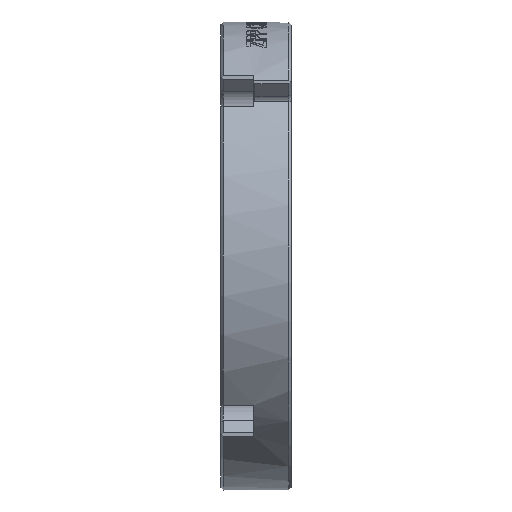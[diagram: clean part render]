
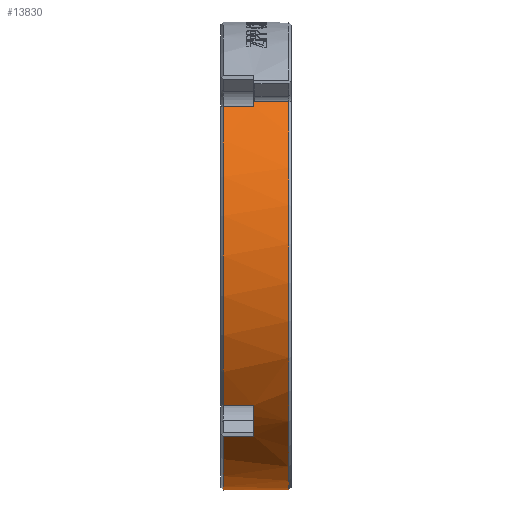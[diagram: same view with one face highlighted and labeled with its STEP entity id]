
A CAD part, left-side view. The second image highlights one B-rep face of the part: STEP entity #13830.
In plain terms, the highlighted cylindrical face has radius 100 mm (diameter 200 mm), a partial arc.
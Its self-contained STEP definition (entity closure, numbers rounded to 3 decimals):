
#233=CARTESIAN_POINT('',(63.795,29.,-77.008));
#241=CARTESIAN_POINT('',(-63.795,29.,-77.008));
#269=CARTESIAN_POINT('',(0.,16.,0.));
#270=DIRECTION('',(0.,-1.,0.));
#271=DIRECTION('',(0.638,0.,-0.77));
#272=AXIS2_PLACEMENT_3D('',#269,#270,#271);
#4628=CARTESIAN_POINT('',(0.,16.,0.));
#4629=DIRECTION('',(0.,-1.,0.));
#4630=DIRECTION('',(-0.751,0.,0.66));
#4631=AXIS2_PLACEMENT_3D('',#4628,#4629,#4630);
#4656=DIRECTION('',(0.,1.,0.));
#4657=VECTOR('',#4656,15.);
#4658=CARTESIAN_POINT('',(65.992,1.,-75.134));
#4659=LINE('',#4658,#4657);
#4660=DIRECTION('',(0.,-1.,0.));
#4661=VECTOR('',#4660,13.);
#4662=CARTESIAN_POINT('',(63.795,29.,-77.008));
#4663=LINE('',#4662,#4661);
#4664=CARTESIAN_POINT('',(0.,29.,0.));
#4665=DIRECTION('',(0.,1.,0.));
#4666=DIRECTION('',(0.638,0.,-0.77));
#4667=AXIS2_PLACEMENT_3D('',#4664,#4665,#4666);
#4669=DIRECTION('',(0.,-1.,0.));
#4670=VECTOR('',#4669,13.);
#4671=CARTESIAN_POINT('',(-63.795,29.,-77.008));
#4672=LINE('',#4671,#4670);
#4673=CARTESIAN_POINT('',(0.,16.,0.));
#4674=DIRECTION('',(0.,1.,0.));
#4675=DIRECTION('',(-0.638,0.,-0.77));
#4676=AXIS2_PLACEMENT_3D('',#4673,#4674,#4675);
#4678=DIRECTION('',(0.,-1.,0.));
#4679=VECTOR('',#4678,13.);
#4680=CARTESIAN_POINT('',(-77.008,29.,-63.795));
#4681=LINE('',#4680,#4679);
#4682=CARTESIAN_POINT('',(0.,29.,0.));
#4683=DIRECTION('',(0.,1.,0.));
#4684=DIRECTION('',(-0.77,0.,-0.638));
#4685=AXIS2_PLACEMENT_3D('',#4682,#4683,#4684);
#4687=DIRECTION('',(0.,-1.,0.));
#4688=VECTOR('',#4687,13.);
#4689=CARTESIAN_POINT('',(-77.008,29.,63.795));
#4690=LINE('',#4689,#4688);
#4691=DIRECTION('',(0.,-1.,0.));
#4692=VECTOR('',#4691,15.);
#4693=CARTESIAN_POINT('',(-75.134,16.,65.992));
#4694=LINE('',#4693,#4692);
#4695=CARTESIAN_POINT('',(0.,1.,0.));
#4696=DIRECTION('',(0.,1.,0.));
#4697=DIRECTION('',(0.66,0.,-0.751));
#4698=AXIS2_PLACEMENT_3D('',#4695,#4696,#4697);
#4700=CARTESIAN_POINT('',(-75.134,1.,
65.992));
#4731=CARTESIAN_POINT('',(65.992,1.,-75.134));
#6046=CARTESIAN_POINT('',(-77.008,29.,-63.795));
#6059=CARTESIAN_POINT('',(-77.008,29.,63.795));
#7637=CARTESIAN_POINT('',(65.992,16.,-75.134));
#7638=VERTEX_POINT('',#7637);
#7652=VERTEX_POINT('',#4731);
#7711=CARTESIAN_POINT('',(-75.134,16.,65.992));
#7712=VERTEX_POINT('',#7711);
#7715=VERTEX_POINT('',#4700);
#7743=VERTEX_POINT('',#233);
#7744=CARTESIAN_POINT('',(63.795,16.,-77.008));
#7745=VERTEX_POINT('',#7744);
#7754=VERTEX_POINT('',#241);
#7760=CARTESIAN_POINT('',(-63.795,16.,
-77.008));
#7761=VERTEX_POINT('',#7760);
#7768=VERTEX_POINT('',#6046);
#7769=CARTESIAN_POINT('',(-77.008,16.,
-63.795));
#7770=VERTEX_POINT('',#7769);
#7771=VERTEX_POINT('',#6059);
#7777=CARTESIAN_POINT('',(-77.008,16.,63.795));
#7778=VERTEX_POINT('',#7777);
#13803=CARTESIAN_POINT('',(0.,30.,0.));
#13804=DIRECTION('',(0.,1.,0.));
#13805=DIRECTION('',(0.,0.,-1.));
#13806=AXIS2_PLACEMENT_3D('',#13803,#13804,#13805);
#13807=CYLINDRICAL_SURFACE('',#13806,100.);
#13809=ORIENTED_EDGE('',*,*,#13808,.F.);
#13811=ORIENTED_EDGE('',*,*,#13810,.T.);
#13812=ORIENTED_EDGE('',*,*,#8108,.F.);
#13813=ORIENTED_EDGE('',*,*,#8071,.F.);
#13814=ORIENTED_EDGE('',*,*,#8056,.T.);
#13816=ORIENTED_EDGE('',*,*,#13815,.T.);
#13818=ORIENTED_EDGE('',*,*,#13817,.T.);
#13820=ORIENTED_EDGE('',*,*,#13819,.F.);
#13822=ORIENTED_EDGE('',*,*,#13821,.T.);
#13824=ORIENTED_EDGE('',*,*,#13823,.T.);
#13825=ORIENTED_EDGE('',*,*,#13779,.F.);
#13827=ORIENTED_EDGE('',*,*,#13826,.T.);
#13828=EDGE_LOOP('',(#13809,#13811,#13812,#13813,#13814,#13816,#13818,#13820,
#13822,#13824,#13825,#13827));
#13829=FACE_OUTER_BOUND('',#13828,.F.);
#13830=ADVANCED_FACE('',(#13829),#13807,.T.);
#273=CIRCLE('',#272,100.);
#4632=CIRCLE('',#4631,100.);
#4668=CIRCLE('',#4667,100.);
#4677=CIRCLE('',#4676,100.);
#4686=CIRCLE('',#4685,100.);
#4699=CIRCLE('',#4698,100.);
#8056=EDGE_CURVE('',#7743,#7754,#4668,.T.);
#8071=EDGE_CURVE('',#7743,#7745,#4663,.T.);
#8108=EDGE_CURVE('',#7745,#7638,#273,.T.);
#13779=EDGE_CURVE('',#7712,#7778,#4632,.T.);
#13808=EDGE_CURVE('',#7652,#7715,#4699,.T.);
#13810=EDGE_CURVE('',#7652,#7638,#4659,.T.);
#13815=EDGE_CURVE('',#7754,#7761,#4672,.T.);
#13817=EDGE_CURVE('',#7761,#7770,#4677,.T.);
#13819=EDGE_CURVE('',#7768,#7770,#4681,.T.);
#13821=EDGE_CURVE('',#7768,#7771,#4686,.T.);
#13823=EDGE_CURVE('',#7771,#7778,#4690,.T.);
#13826=EDGE_CURVE('',#7712,#7715,#4694,.T.);
